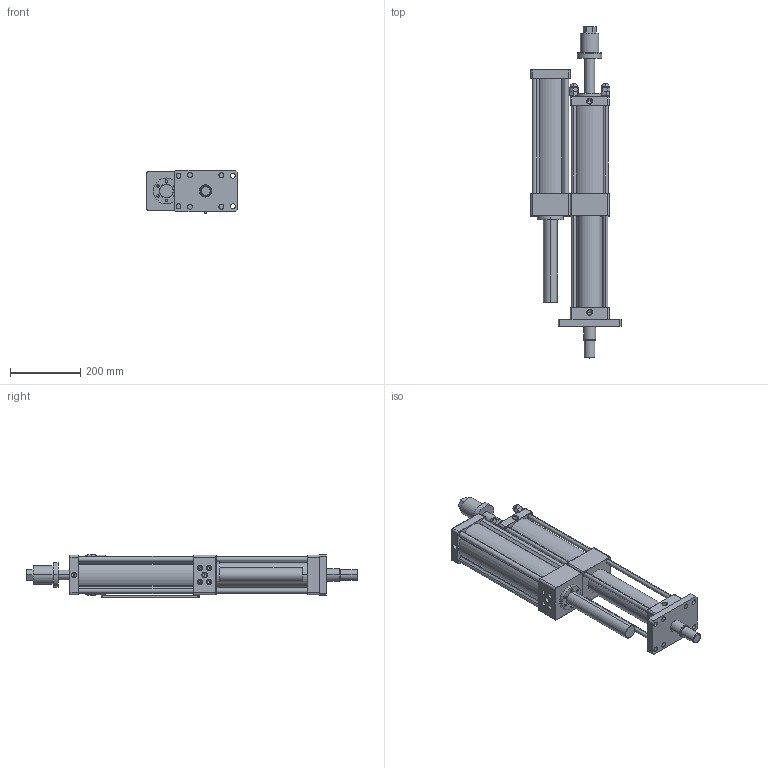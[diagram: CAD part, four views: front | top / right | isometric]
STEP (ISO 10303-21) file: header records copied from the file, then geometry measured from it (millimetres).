
FILE_DESCRIPTION (( 'STEP AP203' ), '1' );
FILE_NAME ('MPTD-80-100-15-8T.STEP', '2016-03-18T02:28:35', ( 'WIN' ), ( '' ), 'SwSTEP 2.0', 'SolidWorks 2014', '' );
FILE_SCHEMA (( 'CONFIG_CONTROL_DESIGN' ));
Length unit declared in the file: millimetre
Products named in the file (1): MPTD-80-100-15-8T
Bounding box: 258 x 947 x 124 mm (x, y, z)
Volume: 5130609.6 mm3; surface area: 1045865.3 mm2
Topology: 5 solids, 13 shells, 566 faces, 1323 edges, 817 vertices
Faces by surface type: plane 303, cylinder 199, cone 56, torus 8
Entity records: 16004 total; most frequent: CARTESIAN_POINT 2957, DIRECTION 2821, ORIENTED_EDGE 2594, EDGE_CURVE 1297, AXIS2_PLACEMENT_3D 1049, VERTEX_POINT 817, VECTOR 723, LINE 723
